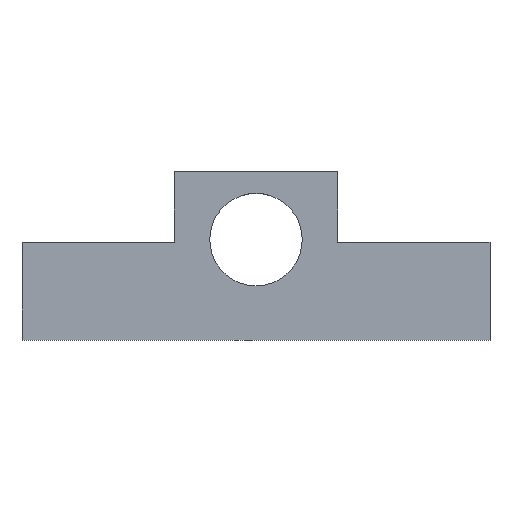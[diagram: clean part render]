
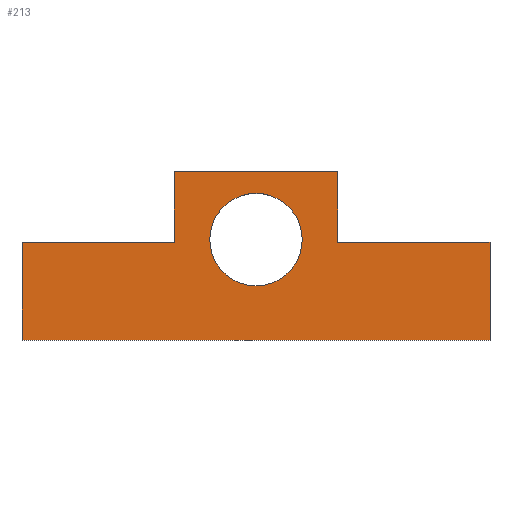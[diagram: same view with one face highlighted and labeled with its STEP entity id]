
A CAD part, top view. The second image highlights one B-rep face of the part: STEP entity #213.
In plain terms, the highlighted planar face has unit normal (0, 0, 1).
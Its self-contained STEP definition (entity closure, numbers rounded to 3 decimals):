
#24 = VERTEX_POINT('',#25);
#25 = CARTESIAN_POINT('',(-44.6,0.85,15.87));
#32 = PLANE('',#33);
#33 = AXIS2_PLACEMENT_3D('',#34,#35,#36);
#34 = CARTESIAN_POINT('',(-44.6,0.85,13.87));
#35 = DIRECTION('',(1.,0.,0.));
#36 = DIRECTION('',(0.,0.,1.));
#44 = PLANE('',#45);
#45 = AXIS2_PLACEMENT_3D('',#46,#47,#48);
#46 = CARTESIAN_POINT('',(-44.6,0.85,13.87));
#47 = DIRECTION('',(0.,1.,0.));
#48 = DIRECTION('',(0.,0.,1.));
#85 = VERTEX_POINT('',#86);
#86 = CARTESIAN_POINT('',(-44.6,4.45,15.87));
#100 = PLANE('',#101);
#101 = AXIS2_PLACEMENT_3D('',#102,#103,#104);
#102 = CARTESIAN_POINT('',(-44.6,4.45,13.87));
#103 = DIRECTION('',(0.,1.,0.));
#104 = DIRECTION('',(0.,0.,1.));
#112 = EDGE_CURVE('',#24,#85,#113,.T.);
#113 = SURFACE_CURVE('',#114,(#118,#125),.PCURVE_S1.);
#114 = LINE('',#115,#116);
#115 = CARTESIAN_POINT('',(-44.6,0.85,15.87));
#116 = VECTOR('',#117,1.);
#117 = DIRECTION('',(0.,1.,0.));
#118 = PCURVE('',#32,#119);
#119 = DEFINITIONAL_REPRESENTATION('',(#120),#124);
#120 = LINE('',#121,#122);
#121 = CARTESIAN_POINT('',(2.,0.));
#122 = VECTOR('',#123,1.);
#123 = DIRECTION('',(0.,-1.));
#124 = ( GEOMETRIC_REPRESENTATION_CONTEXT(2) 
PARAMETRIC_REPRESENTATION_CONTEXT() REPRESENTATION_CONTEXT('2D SPACE',''
  ) );
#125 = PCURVE('',#126,#131);
#126 = PLANE('',#127);
#127 = AXIS2_PLACEMENT_3D('',#128,#129,#130);
#128 = CARTESIAN_POINT('',(-44.6,0.85,15.87));
#129 = DIRECTION('',(0.,0.,1.));
#130 = DIRECTION('',(1.,0.,0.));
#131 = DEFINITIONAL_REPRESENTATION('',(#132),#136);
#132 = LINE('',#133,#134);
#133 = CARTESIAN_POINT('',(0.,0.));
#134 = VECTOR('',#135,1.);
#135 = DIRECTION('',(0.,1.));
#136 = ( GEOMETRIC_REPRESENTATION_CONTEXT(2) 
PARAMETRIC_REPRESENTATION_CONTEXT() REPRESENTATION_CONTEXT('2D SPACE',''
  ) );
#165 = EDGE_CURVE('',#24,#166,#168,.T.);
#166 = VERTEX_POINT('',#167);
#167 = CARTESIAN_POINT('',(-27.4,0.85,15.87));
#168 = SURFACE_CURVE('',#169,(#173,#180),.PCURVE_S1.);
#169 = LINE('',#170,#171);
#170 = CARTESIAN_POINT('',(-44.6,0.85,15.87));
#171 = VECTOR('',#172,1.);
#172 = DIRECTION('',(1.,0.,0.));
#173 = PCURVE('',#44,#174);
#174 = DEFINITIONAL_REPRESENTATION('',(#175),#179);
#175 = LINE('',#176,#177);
#176 = CARTESIAN_POINT('',(2.,0.));
#177 = VECTOR('',#178,1.);
#178 = DIRECTION('',(0.,1.));
#179 = ( GEOMETRIC_REPRESENTATION_CONTEXT(2) 
PARAMETRIC_REPRESENTATION_CONTEXT() REPRESENTATION_CONTEXT('2D SPACE',''
  ) );
#180 = PCURVE('',#126,#181);
#181 = DEFINITIONAL_REPRESENTATION('',(#182),#186);
#182 = LINE('',#183,#184);
#183 = CARTESIAN_POINT('',(0.,0.));
#184 = VECTOR('',#185,1.);
#185 = DIRECTION('',(1.,0.));
#186 = ( GEOMETRIC_REPRESENTATION_CONTEXT(2) 
PARAMETRIC_REPRESENTATION_CONTEXT() REPRESENTATION_CONTEXT('2D SPACE',''
  ) );
#202 = PLANE('',#203);
#203 = AXIS2_PLACEMENT_3D('',#204,#205,#206);
#204 = CARTESIAN_POINT('',(-27.4,0.85,13.87));
#205 = DIRECTION('',(1.,0.,0.));
#206 = DIRECTION('',(0.,0.,1.));
#213 = ADVANCED_FACE('',(#214,#374),#126,.T.);
#214 = FACE_BOUND('',#215,.T.);
#215 = EDGE_LOOP('',(#216,#239,#240,#241,#264,#292,#320,#348));
#216 = ORIENTED_EDGE('',*,*,#217,.F.);
#217 = EDGE_CURVE('',#85,#218,#220,.T.);
#218 = VERTEX_POINT('',#219);
#219 = CARTESIAN_POINT('',(-39.,4.45,15.87));
#220 = SURFACE_CURVE('',#221,(#225,#232),.PCURVE_S1.);
#221 = LINE('',#222,#223);
#222 = CARTESIAN_POINT('',(-44.6,4.45,15.87));
#223 = VECTOR('',#224,1.);
#224 = DIRECTION('',(1.,0.,0.));
#225 = PCURVE('',#126,#226);
#226 = DEFINITIONAL_REPRESENTATION('',(#227),#231);
#227 = LINE('',#228,#229);
#228 = CARTESIAN_POINT('',(0.,3.6));
#229 = VECTOR('',#230,1.);
#230 = DIRECTION('',(1.,0.));
#231 = ( GEOMETRIC_REPRESENTATION_CONTEXT(2) 
PARAMETRIC_REPRESENTATION_CONTEXT() REPRESENTATION_CONTEXT('2D SPACE',''
  ) );
#232 = PCURVE('',#100,#233);
#233 = DEFINITIONAL_REPRESENTATION('',(#234),#238);
#234 = LINE('',#235,#236);
#235 = CARTESIAN_POINT('',(2.,0.));
#236 = VECTOR('',#237,1.);
#237 = DIRECTION('',(0.,1.));
#238 = ( GEOMETRIC_REPRESENTATION_CONTEXT(2) 
PARAMETRIC_REPRESENTATION_CONTEXT() REPRESENTATION_CONTEXT('2D SPACE',''
  ) );
#239 = ORIENTED_EDGE('',*,*,#112,.F.);
#240 = ORIENTED_EDGE('',*,*,#165,.T.);
#241 = ORIENTED_EDGE('',*,*,#242,.T.);
#242 = EDGE_CURVE('',#166,#243,#245,.T.);
#243 = VERTEX_POINT('',#244);
#244 = CARTESIAN_POINT('',(-27.4,4.45,15.87));
#245 = SURFACE_CURVE('',#246,(#250,#257),.PCURVE_S1.);
#246 = LINE('',#247,#248);
#247 = CARTESIAN_POINT('',(-27.4,0.85,15.87));
#248 = VECTOR('',#249,1.);
#249 = DIRECTION('',(0.,1.,0.));
#250 = PCURVE('',#126,#251);
#251 = DEFINITIONAL_REPRESENTATION('',(#252),#256);
#252 = LINE('',#253,#254);
#253 = CARTESIAN_POINT('',(17.2,0.));
#254 = VECTOR('',#255,1.);
#255 = DIRECTION('',(0.,1.));
#256 = ( GEOMETRIC_REPRESENTATION_CONTEXT(2) 
PARAMETRIC_REPRESENTATION_CONTEXT() REPRESENTATION_CONTEXT('2D SPACE',''
  ) );
#257 = PCURVE('',#202,#258);
#258 = DEFINITIONAL_REPRESENTATION('',(#259),#263);
#259 = LINE('',#260,#261);
#260 = CARTESIAN_POINT('',(2.,0.));
#261 = VECTOR('',#262,1.);
#262 = DIRECTION('',(0.,-1.));
#263 = ( GEOMETRIC_REPRESENTATION_CONTEXT(2) 
PARAMETRIC_REPRESENTATION_CONTEXT() REPRESENTATION_CONTEXT('2D SPACE',''
  ) );
#264 = ORIENTED_EDGE('',*,*,#265,.F.);
#265 = EDGE_CURVE('',#266,#243,#268,.T.);
#266 = VERTEX_POINT('',#267);
#267 = CARTESIAN_POINT('',(-33.,4.45,15.87));
#268 = SURFACE_CURVE('',#269,(#273,#280),.PCURVE_S1.);
#269 = LINE('',#270,#271);
#270 = CARTESIAN_POINT('',(-44.6,4.45,15.87));
#271 = VECTOR('',#272,1.);
#272 = DIRECTION('',(1.,0.,0.));
#273 = PCURVE('',#126,#274);
#274 = DEFINITIONAL_REPRESENTATION('',(#275),#279);
#275 = LINE('',#276,#277);
#276 = CARTESIAN_POINT('',(0.,3.6));
#277 = VECTOR('',#278,1.);
#278 = DIRECTION('',(1.,0.));
#279 = ( GEOMETRIC_REPRESENTATION_CONTEXT(2) 
PARAMETRIC_REPRESENTATION_CONTEXT() REPRESENTATION_CONTEXT('2D SPACE',''
  ) );
#280 = PCURVE('',#281,#286);
#281 = PLANE('',#282);
#282 = AXIS2_PLACEMENT_3D('',#283,#284,#285);
#283 = CARTESIAN_POINT('',(-44.6,4.45,13.87));
#284 = DIRECTION('',(0.,1.,0.));
#285 = DIRECTION('',(0.,0.,1.));
#286 = DEFINITIONAL_REPRESENTATION('',(#287),#291);
#287 = LINE('',#288,#289);
#288 = CARTESIAN_POINT('',(2.,0.));
#289 = VECTOR('',#290,1.);
#290 = DIRECTION('',(0.,1.));
#291 = ( GEOMETRIC_REPRESENTATION_CONTEXT(2) 
PARAMETRIC_REPRESENTATION_CONTEXT() REPRESENTATION_CONTEXT('2D SPACE',''
  ) );
#292 = ORIENTED_EDGE('',*,*,#293,.T.);
#293 = EDGE_CURVE('',#266,#294,#296,.T.);
#294 = VERTEX_POINT('',#295);
#295 = CARTESIAN_POINT('',(-33.,7.05,15.87));
#296 = SURFACE_CURVE('',#297,(#301,#308),.PCURVE_S1.);
#297 = LINE('',#298,#299);
#298 = CARTESIAN_POINT('',(-33.,2.05,15.87));
#299 = VECTOR('',#300,1.);
#300 = DIRECTION('',(0.,1.,0.));
#301 = PCURVE('',#126,#302);
#302 = DEFINITIONAL_REPRESENTATION('',(#303),#307);
#303 = LINE('',#304,#305);
#304 = CARTESIAN_POINT('',(11.6,1.2));
#305 = VECTOR('',#306,1.);
#306 = DIRECTION('',(0.,1.));
#307 = ( GEOMETRIC_REPRESENTATION_CONTEXT(2) 
PARAMETRIC_REPRESENTATION_CONTEXT() REPRESENTATION_CONTEXT('2D SPACE',''
  ) );
#308 = PCURVE('',#309,#314);
#309 = PLANE('',#310);
#310 = AXIS2_PLACEMENT_3D('',#311,#312,#313);
#311 = CARTESIAN_POINT('',(-33.,2.05,13.87));
#312 = DIRECTION('',(1.,0.,0.));
#313 = DIRECTION('',(0.,0.,1.));
#314 = DEFINITIONAL_REPRESENTATION('',(#315),#319);
#315 = LINE('',#316,#317);
#316 = CARTESIAN_POINT('',(2.,0.));
#317 = VECTOR('',#318,1.);
#318 = DIRECTION('',(0.,-1.));
#319 = ( GEOMETRIC_REPRESENTATION_CONTEXT(2) 
PARAMETRIC_REPRESENTATION_CONTEXT() REPRESENTATION_CONTEXT('2D SPACE',''
  ) );
#320 = ORIENTED_EDGE('',*,*,#321,.F.);
#321 = EDGE_CURVE('',#322,#294,#324,.T.);
#322 = VERTEX_POINT('',#323);
#323 = CARTESIAN_POINT('',(-39.,7.05,15.87));
#324 = SURFACE_CURVE('',#325,(#329,#336),.PCURVE_S1.);
#325 = LINE('',#326,#327);
#326 = CARTESIAN_POINT('',(-39.,7.05,15.87));
#327 = VECTOR('',#328,1.);
#328 = DIRECTION('',(1.,0.,0.));
#329 = PCURVE('',#126,#330);
#330 = DEFINITIONAL_REPRESENTATION('',(#331),#335);
#331 = LINE('',#332,#333);
#332 = CARTESIAN_POINT('',(5.6,6.2));
#333 = VECTOR('',#334,1.);
#334 = DIRECTION('',(1.,0.));
#335 = ( GEOMETRIC_REPRESENTATION_CONTEXT(2) 
PARAMETRIC_REPRESENTATION_CONTEXT() REPRESENTATION_CONTEXT('2D SPACE',''
  ) );
#336 = PCURVE('',#337,#342);
#337 = PLANE('',#338);
#338 = AXIS2_PLACEMENT_3D('',#339,#340,#341);
#339 = CARTESIAN_POINT('',(-39.,7.05,13.87));
#340 = DIRECTION('',(0.,1.,0.));
#341 = DIRECTION('',(0.,0.,1.));
#342 = DEFINITIONAL_REPRESENTATION('',(#343),#347);
#343 = LINE('',#344,#345);
#344 = CARTESIAN_POINT('',(2.,0.));
#345 = VECTOR('',#346,1.);
#346 = DIRECTION('',(0.,1.));
#347 = ( GEOMETRIC_REPRESENTATION_CONTEXT(2) 
PARAMETRIC_REPRESENTATION_CONTEXT() REPRESENTATION_CONTEXT('2D SPACE',''
  ) );
#348 = ORIENTED_EDGE('',*,*,#349,.F.);
#349 = EDGE_CURVE('',#218,#322,#350,.T.);
#350 = SURFACE_CURVE('',#351,(#355,#362),.PCURVE_S1.);
#351 = LINE('',#352,#353);
#352 = CARTESIAN_POINT('',(-39.,2.05,15.87));
#353 = VECTOR('',#354,1.);
#354 = DIRECTION('',(0.,1.,0.));
#355 = PCURVE('',#126,#356);
#356 = DEFINITIONAL_REPRESENTATION('',(#357),#361);
#357 = LINE('',#358,#359);
#358 = CARTESIAN_POINT('',(5.6,1.2));
#359 = VECTOR('',#360,1.);
#360 = DIRECTION('',(0.,1.));
#361 = ( GEOMETRIC_REPRESENTATION_CONTEXT(2) 
PARAMETRIC_REPRESENTATION_CONTEXT() REPRESENTATION_CONTEXT('2D SPACE',''
  ) );
#362 = PCURVE('',#363,#368);
#363 = PLANE('',#364);
#364 = AXIS2_PLACEMENT_3D('',#365,#366,#367);
#365 = CARTESIAN_POINT('',(-39.,2.05,13.87));
#366 = DIRECTION('',(1.,0.,0.));
#367 = DIRECTION('',(0.,0.,1.));
#368 = DEFINITIONAL_REPRESENTATION('',(#369),#373);
#369 = LINE('',#370,#371);
#370 = CARTESIAN_POINT('',(2.,0.));
#371 = VECTOR('',#372,1.);
#372 = DIRECTION('',(0.,-1.));
#373 = ( GEOMETRIC_REPRESENTATION_CONTEXT(2) 
PARAMETRIC_REPRESENTATION_CONTEXT() REPRESENTATION_CONTEXT('2D SPACE',''
  ) );
#374 = FACE_BOUND('',#375,.T.);
#375 = EDGE_LOOP('',(#376));
#376 = ORIENTED_EDGE('',*,*,#377,.T.);
#377 = EDGE_CURVE('',#378,#378,#380,.T.);
#378 = VERTEX_POINT('',#379);
#379 = CARTESIAN_POINT('',(-34.3,4.55,15.87));
#380 = SURFACE_CURVE('',#381,(#386,#397),.PCURVE_S1.);
#381 = CIRCLE('',#382,1.7);
#382 = AXIS2_PLACEMENT_3D('',#383,#384,#385);
#383 = CARTESIAN_POINT('',(-36.,4.55,15.87));
#384 = DIRECTION('',(0.,0.,-1.));
#385 = DIRECTION('',(1.,0.,0.));
#386 = PCURVE('',#126,#387);
#387 = DEFINITIONAL_REPRESENTATION('',(#388),#396);
#388 = ( BOUNDED_CURVE() B_SPLINE_CURVE(2,(#389,#390,#391,#392,#393,#394
,#395),.UNSPECIFIED.,.T.,.F.) B_SPLINE_CURVE_WITH_KNOTS((1,2,2,2,2,1),(
    -2.094,0.,2.094,4.189,6.283,
8.378),.UNSPECIFIED.) CURVE() GEOMETRIC_REPRESENTATION_ITEM() 
RATIONAL_B_SPLINE_CURVE((1.,0.5,1.,0.5,1.,0.5,1.)) REPRESENTATION_ITEM(
  '') );
#389 = CARTESIAN_POINT('',(10.3,3.7));
#390 = CARTESIAN_POINT('',(10.3,0.756));
#391 = CARTESIAN_POINT('',(7.75,2.228));
#392 = CARTESIAN_POINT('',(5.2,3.7));
#393 = CARTESIAN_POINT('',(7.75,5.172));
#394 = CARTESIAN_POINT('',(10.3,6.644));
#395 = CARTESIAN_POINT('',(10.3,3.7));
#396 = ( GEOMETRIC_REPRESENTATION_CONTEXT(2) 
PARAMETRIC_REPRESENTATION_CONTEXT() REPRESENTATION_CONTEXT('2D SPACE',''
  ) );
#397 = PCURVE('',#398,#403);
#398 = CYLINDRICAL_SURFACE('',#399,1.7);
#399 = AXIS2_PLACEMENT_3D('',#400,#401,#402);
#400 = CARTESIAN_POINT('',(-36.,4.55,13.57));
#401 = DIRECTION('',(-0.,-0.,-1.));
#402 = DIRECTION('',(1.,0.,0.));
#403 = DEFINITIONAL_REPRESENTATION('',(#404),#408);
#404 = LINE('',#405,#406);
#405 = CARTESIAN_POINT('',(-6.283,-2.3));
#406 = VECTOR('',#407,1.);
#407 = DIRECTION('',(1.,-0.));
#408 = ( GEOMETRIC_REPRESENTATION_CONTEXT(2) 
PARAMETRIC_REPRESENTATION_CONTEXT() REPRESENTATION_CONTEXT('2D SPACE',''
  ) );
